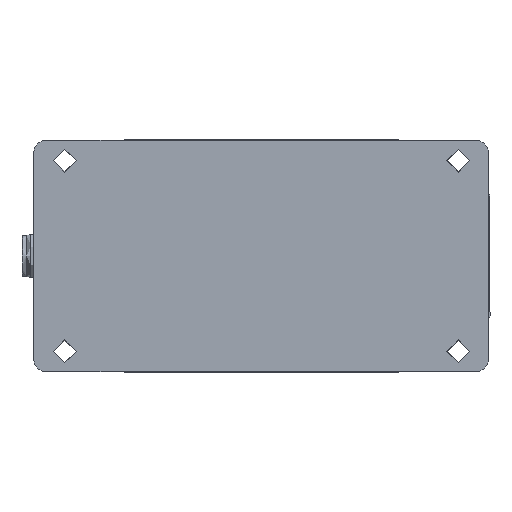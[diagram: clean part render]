
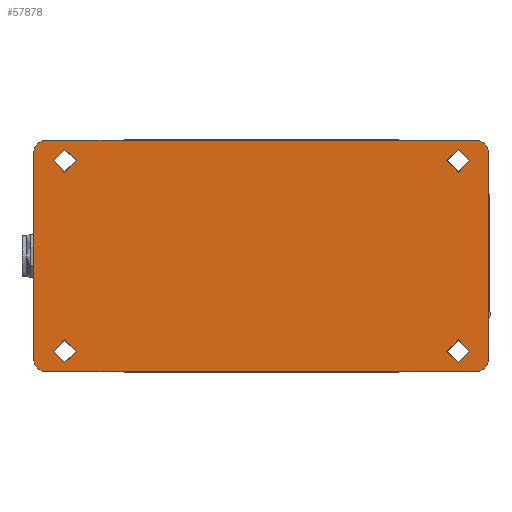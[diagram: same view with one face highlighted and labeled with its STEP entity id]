
A CAD part, front view. The second image highlights one B-rep face of the part: STEP entity #57878.
In plain terms, the highlighted planar face has unit normal (0, -1, 0).
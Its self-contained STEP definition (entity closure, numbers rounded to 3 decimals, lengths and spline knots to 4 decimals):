
#535=CIRCLE('',#61140,0.111);
#536=CIRCLE('',#61141,0.111);
#537=CIRCLE('',#61142,0.111);
#538=CIRCLE('',#61143,0.111);
#1193=ELLIPSE('',#61135,0.1181,0.1181);
#1194=ELLIPSE('',#61137,0.1181,0.1181);
#1195=ELLIPSE('',#61138,0.1181,0.1181);
#1196=ELLIPSE('',#61139,0.1181,0.1181);
#1312=FACE_BOUND('',#7763,.T.);
#1313=FACE_BOUND('',#7764,.T.);
#1314=FACE_BOUND('',#7765,.T.);
#1315=FACE_BOUND('',#7766,.T.);
#4593=FACE_OUTER_BOUND('',#7762,.T.);
#7762=EDGE_LOOP('',(#36762,#36763,#36764,#36765,#36766,#36767,#36768,#36769));
#7763=EDGE_LOOP('',(#36770));
#7764=EDGE_LOOP('',(#36771));
#7765=EDGE_LOOP('',(#36772));
#7766=EDGE_LOOP('',(#36773));
#11305=LINE('',#79823,#16875);
#11335=LINE('',#80045,#16905);
#11336=LINE('',#80050,#16906);
#11337=LINE('',#80053,#16907);
#16875=VECTOR('',#64414,0.3937);
#16905=VECTOR('',#64514,0.3937);
#16906=VECTOR('',#64519,0.3937);
#16907=VECTOR('',#64522,0.3937);
#22495=VERTEX_POINT('',#79820);
#22496=VERTEX_POINT('',#79822);
#22547=VERTEX_POINT('',#80038);
#22548=VERTEX_POINT('',#80040);
#22549=VERTEX_POINT('',#80044);
#22550=VERTEX_POINT('',#80047);
#22551=VERTEX_POINT('',#80049);
#22552=VERTEX_POINT('',#80051);
#22553=VERTEX_POINT('',#80054);
#22554=VERTEX_POINT('',#80056);
#22555=VERTEX_POINT('',#80058);
#22556=VERTEX_POINT('',#80060);
#28123=EDGE_CURVE('',#22496,#22495,#11305,.F.);
#28183=EDGE_CURVE('',#22547,#22548,#1193,.T.);
#28185=EDGE_CURVE('',#22547,#22549,#11335,.F.);
#28186=EDGE_CURVE('',#22496,#22549,#1194,.T.);
#28187=EDGE_CURVE('',#22550,#22495,#1195,.T.);
#28188=EDGE_CURVE('',#22550,#22551,#11336,.F.);
#28189=EDGE_CURVE('',#22552,#22551,#1196,.T.);
#28190=EDGE_CURVE('',#22552,#22548,#11337,.F.);
#28191=EDGE_CURVE('',#22553,#22553,#535,.T.);
#28192=EDGE_CURVE('',#22554,#22554,#536,.T.);
#28193=EDGE_CURVE('',#22555,#22555,#537,.T.);
#28194=EDGE_CURVE('',#22556,#22556,#538,.T.);
#36762=ORIENTED_EDGE('',*,*,#28183,.F.);
#36763=ORIENTED_EDGE('',*,*,#28185,.T.);
#36764=ORIENTED_EDGE('',*,*,#28186,.F.);
#36765=ORIENTED_EDGE('',*,*,#28123,.T.);
#36766=ORIENTED_EDGE('',*,*,#28187,.F.);
#36767=ORIENTED_EDGE('',*,*,#28188,.T.);
#36768=ORIENTED_EDGE('',*,*,#28189,.F.);
#36769=ORIENTED_EDGE('',*,*,#28190,.T.);
#36770=ORIENTED_EDGE('',*,*,#28191,.T.);
#36771=ORIENTED_EDGE('',*,*,#28192,.T.);
#36772=ORIENTED_EDGE('',*,*,#28193,.T.);
#36773=ORIENTED_EDGE('',*,*,#28194,.T.);
#52863=PLANE('',#61136);
#57878=ADVANCED_FACE('',(#4593,#1312,#1313,#1314,#1315),#52863,.T.);
#61135=AXIS2_PLACEMENT_3D('',#80041,#64509,#64510);
#61136=AXIS2_PLACEMENT_3D('',#80043,#64512,#64513);
#61137=AXIS2_PLACEMENT_3D('',#80046,#64515,#64516);
#61138=AXIS2_PLACEMENT_3D('',#80048,#64517,#64518);
#61139=AXIS2_PLACEMENT_3D('',#80052,#64520,#64521);
#61140=AXIS2_PLACEMENT_3D('',#80055,#64523,#64524);
#61141=AXIS2_PLACEMENT_3D('',#80057,#64525,#64526);
#61142=AXIS2_PLACEMENT_3D('',#80059,#64527,#64528);
#61143=AXIS2_PLACEMENT_3D('',#80061,#64529,#64530);
#64414=DIRECTION('',(0.,0.,1.));
#64509=DIRECTION('center_axis',(0.,1.,0.));
#64510=DIRECTION('ref_axis',(0.707,0.,0.707));
#64512=DIRECTION('center_axis',(0.,-1.,0.));
#64513=DIRECTION('ref_axis',(-1.,0.,0.));
#64514=DIRECTION('',(1.,0.,0.));
#64515=DIRECTION('center_axis',(0.,1.,0.));
#64516=DIRECTION('ref_axis',(-0.707,0.,0.707));
#64517=DIRECTION('center_axis',(0.,1.,0.));
#64518=DIRECTION('ref_axis',(-0.707,0.,-0.707));
#64519=DIRECTION('',(-1.,0.,0.));
#64520=DIRECTION('center_axis',(0.,1.,0.));
#64521=DIRECTION('ref_axis',(0.707,0.,-0.707));
#64522=DIRECTION('',(0.,0.,-1.));
#64523=DIRECTION('center_axis',(0.,1.,0.));
#64524=DIRECTION('ref_axis',(0.,0.,
1.));
#64525=DIRECTION('center_axis',(0.,1.,0.));
#64526=DIRECTION('ref_axis',(0.,0.,
1.));
#64527=DIRECTION('center_axis',(0.,1.,0.));
#64528=DIRECTION('ref_axis',(0.,0.,
1.));
#64529=DIRECTION('center_axis',(0.,1.,0.));
#64530=DIRECTION('ref_axis',(0.,0.,
1.));
#79820=CARTESIAN_POINT('',(-2.2004,-0.3543,-1.));
#79822=CARTESIAN_POINT('',(-2.2004,-0.3543,1.));
#79823=CARTESIAN_POINT('',(-2.2004,-0.3543,-0.5491));
#80038=CARTESIAN_POINT('',(2.0741,-0.3543,1.1181));
#80040=CARTESIAN_POINT('',(2.1922,-0.3543,1.));
#80041=CARTESIAN_POINT('Origin',(2.0741,-0.3543,0.9999));
#80043=CARTESIAN_POINT('Origin',(0.,-0.3543,
0.));
#80044=CARTESIAN_POINT('',(-2.0823,-0.3543,1.1181));
#80045=CARTESIAN_POINT('',(-1.0975,-0.3543,1.1181));
#80046=CARTESIAN_POINT('Origin',(-2.0823,-0.3543,0.9999));
#80047=CARTESIAN_POINT('',(-2.0823,-0.3543,-1.1181));
#80048=CARTESIAN_POINT('Origin',(-2.0823,-0.3543,-0.9999));
#80049=CARTESIAN_POINT('',(2.0741,-0.3543,-1.1181));
#80050=CARTESIAN_POINT('',(1.0975,-0.3543,-1.1181));
#80051=CARTESIAN_POINT('',(2.1922,-0.3543,-1.));
#80052=CARTESIAN_POINT('Origin',(2.0741,-0.3543,-0.9999));
#80053=CARTESIAN_POINT('',(2.1922,-0.3543,0.5491));
#80054=CARTESIAN_POINT('',(1.8995,-0.3543,-1.032));
#80055=CARTESIAN_POINT('Origin',(1.8995,-0.3543,-0.921));
#80056=CARTESIAN_POINT('',(-1.8995,-0.3543,0.81));
#80057=CARTESIAN_POINT('Origin',(-1.8995,-0.3543,0.921));
#80058=CARTESIAN_POINT('',(-1.8995,-0.3543,-1.032));
#80059=CARTESIAN_POINT('Origin',(-1.8995,-0.3543,-0.921));
#80060=CARTESIAN_POINT('',(1.8995,-0.3543,0.81));
#80061=CARTESIAN_POINT('Origin',(1.8995,-0.3543,0.921));
